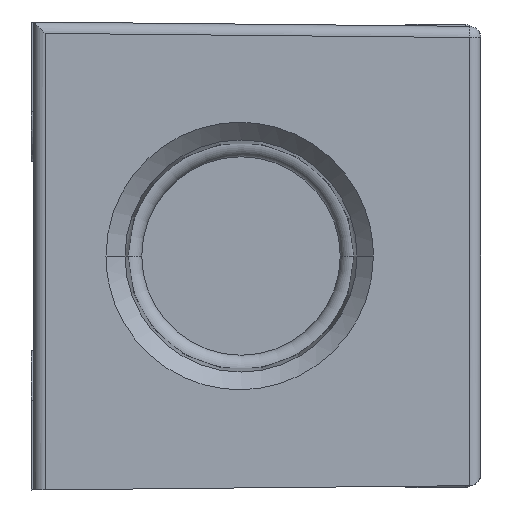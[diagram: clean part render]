
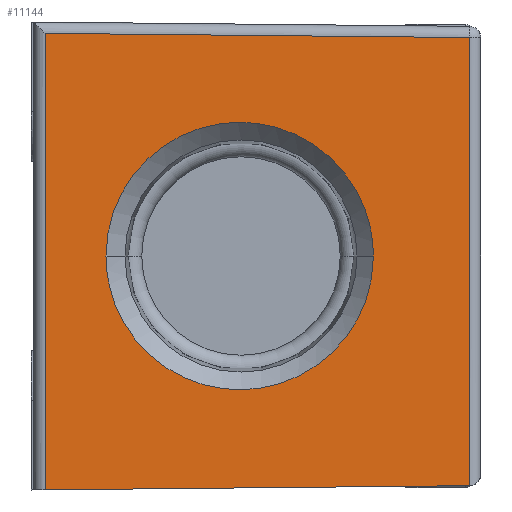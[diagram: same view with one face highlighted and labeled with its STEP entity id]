
A CAD part, front view. The second image highlights one B-rep face of the part: STEP entity #11144.
In plain terms, the highlighted planar face has unit normal (0.01, -1, 0).
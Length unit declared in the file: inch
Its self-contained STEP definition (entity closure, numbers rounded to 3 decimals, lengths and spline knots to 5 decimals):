
#3256=DIRECTION('',(0.,0.,1.));
#3257=VECTOR('',#3256,1.82891);
#3258=CARTESIAN_POINT('',(-0.79956,-3.68445,
-0.93695));
#3259=LINE('',#3258,#3257);
#3270=DIRECTION('',(-1.,-0.01,0.01));
#3271=VECTOR('',#3270,1.70017);
#3272=CARTESIAN_POINT('',(0.90044,-3.66769,
0.87519));
#3273=LINE('',#3272,#3271);
#3310=DIRECTION('',(-1.,-0.01,-0.01));
#3311=VECTOR('',#3310,1.70017);
#3312=CARTESIAN_POINT('',(0.90044,-3.66769,
-0.92019));
#3313=LINE('',#3312,#3311);
#3314=CARTESIAN_POINT('',(0.51549,-3.67149,0.));
#3315=CARTESIAN_POINT('',(0.51549,-3.67149,
-0.03157));
#3316=CARTESIAN_POINT('',(0.50988,-3.67154,
-0.09707));
#3317=CARTESIAN_POINT('',(0.48145,-3.67182,
-0.19781));
#3318=CARTESIAN_POINT('',(0.43154,-3.67231,
-0.2949));
#3319=CARTESIAN_POINT('',(0.3613,-3.67301,
-0.38156));
#3320=CARTESIAN_POINT('',(0.27463,-3.67386,
-0.45181));
#3321=CARTESIAN_POINT('',(0.19372,-3.67466,
-0.49338));
#3322=CARTESIAN_POINT('',(0.12716,-3.67531,
-0.51593));
#3323=CARTESIAN_POINT('',(0.0771,-3.67581,
-0.52763));
#3324=CARTESIAN_POINT('',(0.03591,-3.67621,
-0.53323));
#3325=CARTESIAN_POINT('',(0.00352,-3.67653,
-0.53539));
#3326=CARTESIAN_POINT('',(-0.02028,-3.67677,
-0.53592));
#3327=CARTESIAN_POINT('',(-0.04409,-3.677,
-0.53539));
#3328=CARTESIAN_POINT('',(-0.07647,-3.67732,
-0.53323));
#3329=CARTESIAN_POINT('',(-0.11767,-3.67773,
-0.52763));
#3330=CARTESIAN_POINT('',(-0.16773,-3.67822,
-0.51593));
#3331=CARTESIAN_POINT('',(-0.23429,-3.67888,
-0.49338));
#3332=CARTESIAN_POINT('',(-0.3152,-3.67968,
-0.45181));
#3333=CARTESIAN_POINT('',(-0.40187,-3.68053,
-0.38156));
#3334=CARTESIAN_POINT('',(-0.47211,-3.68122,
-0.2949));
#3335=CARTESIAN_POINT('',(-0.52201,-3.68172,
-0.19781));
#3336=CARTESIAN_POINT('',(-0.55044,-3.682,
-0.09707));
#3337=CARTESIAN_POINT('',(-0.55605,-3.68205,
-0.03157));
#3338=CARTESIAN_POINT('',(-0.55605,-3.68205,0.));
#3340=CARTESIAN_POINT('',(-0.55605,-3.68205,0.));
#3341=CARTESIAN_POINT('',(-0.55605,-3.68205,
0.03157));
#3342=CARTESIAN_POINT('',(-0.55044,-3.682,
0.09707));
#3343=CARTESIAN_POINT('',(-0.52201,-3.68172,
0.19781));
#3344=CARTESIAN_POINT('',(-0.47211,-3.68122,
0.2949));
#3345=CARTESIAN_POINT('',(-0.40187,-3.68053,
0.38156));
#3346=CARTESIAN_POINT('',(-0.3152,-3.67968,
0.45181));
#3347=CARTESIAN_POINT('',(-0.23429,-3.67888,
0.49338));
#3348=CARTESIAN_POINT('',(-0.16773,-3.67822,
0.51593));
#3349=CARTESIAN_POINT('',(-0.11767,-3.67773,
0.52763));
#3350=CARTESIAN_POINT('',(-0.07647,-3.67732,
0.53323));
#3351=CARTESIAN_POINT('',(-0.04409,-3.677,
0.53539));
#3352=CARTESIAN_POINT('',(-0.02028,-3.67677,
0.53592));
#3353=CARTESIAN_POINT('',(0.00352,-3.67653,
0.53539));
#3354=CARTESIAN_POINT('',(0.03591,-3.67621,
0.53323));
#3355=CARTESIAN_POINT('',(0.0771,-3.67581,
0.52763));
#3356=CARTESIAN_POINT('',(0.12716,-3.67531,
0.51593));
#3357=CARTESIAN_POINT('',(0.19372,-3.67466,
0.49338));
#3358=CARTESIAN_POINT('',(0.27463,-3.67386,
0.45181));
#3359=CARTESIAN_POINT('',(0.3613,-3.67301,
0.38156));
#3360=CARTESIAN_POINT('',(0.43154,-3.67231,
0.2949));
#3361=CARTESIAN_POINT('',(0.48145,-3.67182,
0.19781));
#3362=CARTESIAN_POINT('',(0.50988,-3.67154,
0.09707));
#3363=CARTESIAN_POINT('',(0.51549,-3.67149,
0.03157));
#3364=CARTESIAN_POINT('',(0.51549,-3.67149,0.));
#3370=DIRECTION('',(0.,0.,-1.));
#3371=VECTOR('',#3370,1.79538);
#3372=CARTESIAN_POINT('',(0.90044,-3.66769,
0.87519));
#3373=LINE('',#3372,#3371);
#6186=CARTESIAN_POINT('',(0.51549,-3.67149,0.));
#6187=VERTEX_POINT('',#6186);
#6188=CARTESIAN_POINT('',(-0.55605,-3.68205,0.));
#6189=VERTEX_POINT('',#6188);
#6258=CARTESIAN_POINT('',(0.90044,-3.66769,
0.87519));
#6259=CARTESIAN_POINT('',(0.90044,-3.66769,
-0.92019));
#6260=VERTEX_POINT('',#6258);
#6261=VERTEX_POINT('',#6259);
#6272=CARTESIAN_POINT('',(-0.79956,-3.68445,
0.89196));
#6273=VERTEX_POINT('',#6272);
#6278=CARTESIAN_POINT('',(-0.79956,-3.68445,
-0.93695));
#6279=VERTEX_POINT('',#6278);
#11126=CARTESIAN_POINT('',(-0.855,-3.685,-1.9922));
#11127=DIRECTION('',(0.01,-1.,0.));
#11128=DIRECTION('',(0.,0.,1.));
#11129=AXIS2_PLACEMENT_3D('',#11126,#11127,#11128);
#11130=PLANE('',#11129);
#11132=ORIENTED_EDGE('',*,*,#11131,.T.);
#11133=ORIENTED_EDGE('',*,*,#10977,.T.);
#11134=ORIENTED_EDGE('',*,*,#11106,.T.);
#11135=ORIENTED_EDGE('',*,*,#11117,.F.);
#11136=EDGE_LOOP('',(#11132,#11133,#11134,#11135));
#11137=FACE_OUTER_BOUND('',#11136,.F.);
#11139=ORIENTED_EDGE('',*,*,#11138,.F.);
#11141=ORIENTED_EDGE('',*,*,#11140,.F.);
#11142=EDGE_LOOP('',(#11139,#11141));
#11143=FACE_BOUND('',#11142,.F.);
#11144=ADVANCED_FACE('',(#11137,#11143),#11130,.T.);
#3339=B_SPLINE_CURVE_WITH_KNOTS('',3,(#3314,#3315,#3316,#3317,#3318,#3319,#3320,
#3321,#3322,#3323,#3324,#3325,#3326,#3327,#3328,#3329,#3330,#3331,#3332,#3333,
#3334,#3335,#3336,#3337,#3338),.UNSPECIFIED.,.F.,.F.,(4,1,1,1,1,1,1,1,1,1,1,1,1,
1,1,1,1,1,1,1,1,1,4),(0.,0.0625,0.125,0.1875,0.25,0.3125,0.375,
0.40625,0.4375,0.46875,0.48438,0.5,0.51563,0.53125,0.5625,
0.59375,0.625,0.6875,0.75,0.8125,0.875,0.9375,1.),
.UNSPECIFIED.);
#3365=B_SPLINE_CURVE_WITH_KNOTS('',3,(#3340,#3341,#3342,#3343,#3344,#3345,#3346,
#3347,#3348,#3349,#3350,#3351,#3352,#3353,#3354,#3355,#3356,#3357,#3358,#3359,
#3360,#3361,#3362,#3363,#3364),.UNSPECIFIED.,.F.,.F.,(4,1,1,1,1,1,1,1,1,1,1,1,1,
1,1,1,1,1,1,1,1,1,4),(0.,0.0625,0.125,0.1875,0.25,0.3125,0.375,
0.40625,0.4375,0.46875,0.48438,0.5,0.51563,0.53125,0.5625,
0.59375,0.625,0.6875,0.75,0.8125,0.875,0.9375,1.),
.UNSPECIFIED.);
#10977=EDGE_CURVE('',#6261,#6279,#3313,.T.);
#11106=EDGE_CURVE('',#6279,#6273,#3259,.T.);
#11117=EDGE_CURVE('',#6260,#6273,#3273,.T.);
#11131=EDGE_CURVE('',#6260,#6261,#3373,.T.);
#11138=EDGE_CURVE('',#6187,#6189,#3339,.T.);
#11140=EDGE_CURVE('',#6189,#6187,#3365,.T.);
